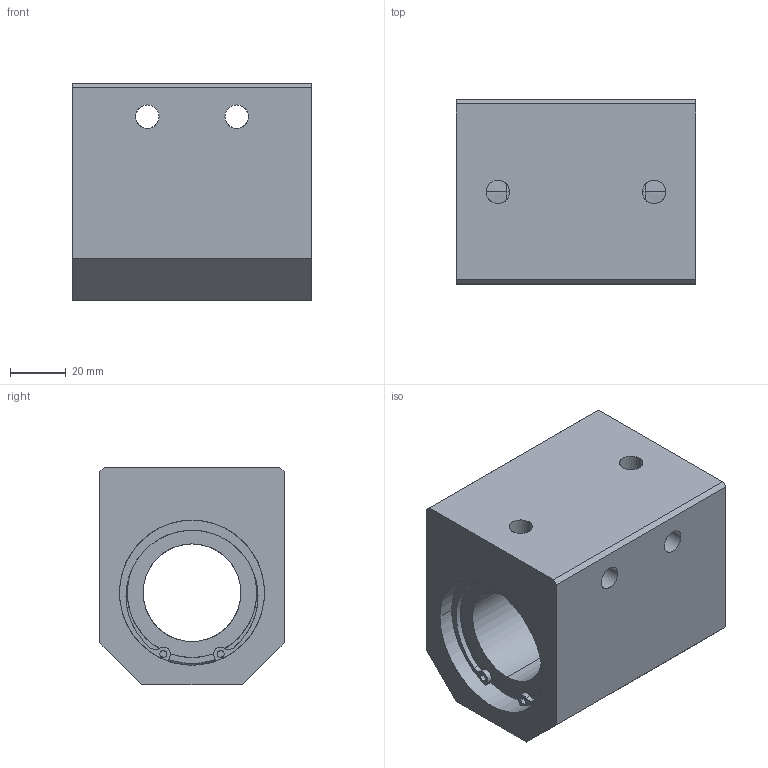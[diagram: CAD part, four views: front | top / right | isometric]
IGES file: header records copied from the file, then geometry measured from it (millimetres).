
Global section: file name: No Iges File Name specified; native system: AutoDesk Inventor R10; preprocessor: AutoDesk Inventor Iges Exporter R10; author: No Author specified; organization: No Organization specified; date: 20101213.094152; units: millimetre
Bounding box: 86 x 66 x 78 mm (x, y, z)
Surface area: 49697.2 mm2 (no closed solid volume)
Topology: 0 solids, 0 shells, 102 faces, 824 edges, 824 vertices
Faces by surface type: bspline 102
